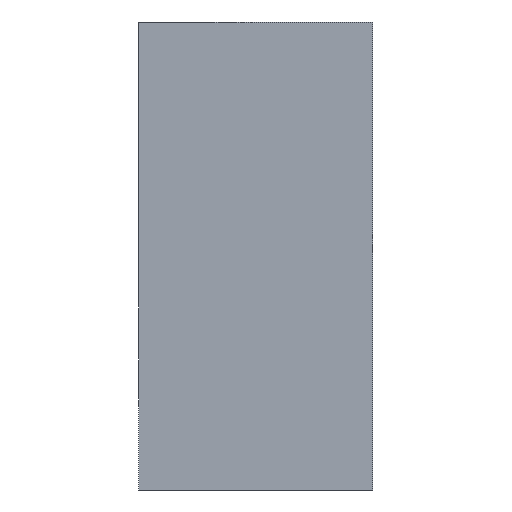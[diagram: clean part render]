
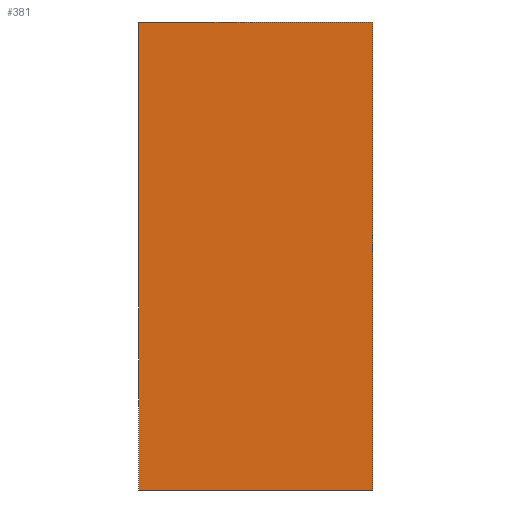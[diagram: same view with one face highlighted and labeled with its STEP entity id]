
A CAD part, left-side view. The second image highlights one B-rep face of the part: STEP entity #381.
In plain terms, the highlighted planar face has unit normal (-1, 0, 0).
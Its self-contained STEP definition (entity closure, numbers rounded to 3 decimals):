
#269=CARTESIAN_POINT('',(-26.024,1750.493,9.269));
#270=VERTEX_POINT('',#269);
#277=CARTESIAN_POINT('',(-26.024,1740.493,9.269));
#278=VERTEX_POINT('',#277);
#279=CARTESIAN_POINT('',(-26.024,1750.493,9.269));
#280=DIRECTION('',(0.0,-1.0,0.0));
#281=VECTOR('',#280,10.0);
#282=LINE('',#279,#281);
#283=EDGE_CURVE('',#270,#278,#282,.T.);
#302=CARTESIAN_POINT('',(-26.024,1740.493,-10.731));
#303=VERTEX_POINT('',#302);
#304=CARTESIAN_POINT('',(-26.024,1740.493,9.269));
#305=DIRECTION('',(0.0,0.0,-1.0));
#306=VECTOR('',#305,20.0);
#307=LINE('',#304,#306);
#308=EDGE_CURVE('',#278,#303,#307,.T.);
#327=CARTESIAN_POINT('',(-26.024,1750.493,-10.731));
#328=VERTEX_POINT('',#327);
#341=CARTESIAN_POINT('',(-26.024,1740.493,-10.731));
#342=DIRECTION('',(0.0,1.0,0.0));
#343=VECTOR('',#342,10.0);
#344=LINE('',#341,#343);
#345=EDGE_CURVE('',#303,#328,#344,.T.);
#355=CARTESIAN_POINT('',(-26.024,1750.493,-10.731));
#356=DIRECTION('',(0.0,0.0,1.0));
#357=VECTOR('',#356,20.0);
#358=LINE('',#355,#357);
#359=EDGE_CURVE('',#328,#270,#358,.T.);
#370=CARTESIAN_POINT('',(-26.024,1740.493,9.269));
#371=DIRECTION('',(-1.0,0.0,0.0));
#372=DIRECTION('',(0.0,1.0,0.0));
#373=AXIS2_PLACEMENT_3D('',#370,#371,#372);
#374=PLANE('',#373);
#375=ORIENTED_EDGE('',*,*,#359,.F.);
#376=ORIENTED_EDGE('',*,*,#345,.F.);
#377=ORIENTED_EDGE('',*,*,#308,.F.);
#378=ORIENTED_EDGE('',*,*,#283,.F.);
#379=EDGE_LOOP('',(#375,#376,#377,#378));
#380=FACE_OUTER_BOUND('',#379,.T.);
#381=ADVANCED_FACE('',(#380),#374,.T.);
